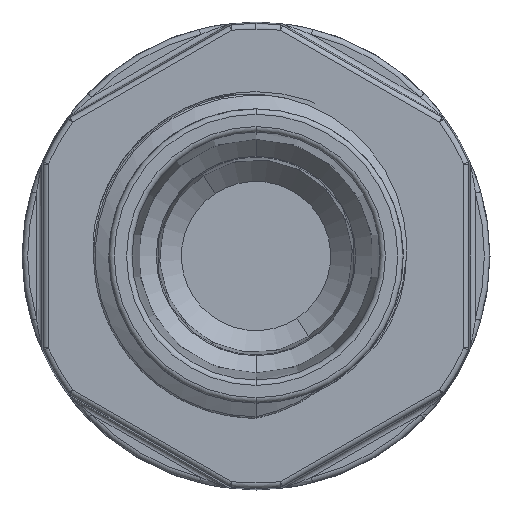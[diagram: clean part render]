
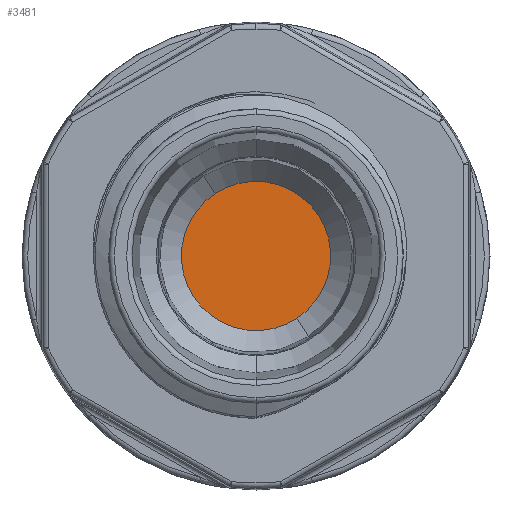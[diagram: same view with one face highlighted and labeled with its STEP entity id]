
A CAD part, front view. The second image highlights one B-rep face of the part: STEP entity #3481.
In plain terms, the highlighted planar face has unit normal (0, -1, 0).
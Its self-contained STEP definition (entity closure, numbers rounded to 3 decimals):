
#2274 = CARTESIAN_POINT ( 'NONE',  ( 0., 11., 0. ) ) ;
#3391 = DIRECTION ( 'NONE',  ( 0., -1., 0. ) ) ;
#3481 = ADVANCED_FACE ( 'NONE', ( #28599 ), #8229, .F. ) ;
#5016 = AXIS2_PLACEMENT_3D ( 'NONE', #17895, #25471, #28105 ) ;
#8142 = CARTESIAN_POINT ( 'NONE',  ( 0., 11., 0. ) ) ;
#8229 = PLANE ( 'NONE',  #5016 ) ;
#13215 = DIRECTION ( 'NONE',  ( 0., 0., -1. ) ) ;
#13403 = VERTEX_POINT ( 'NONE', #13601 ) ;
#13508 = VERTEX_POINT ( 'NONE', #19481 ) ;
#13601 = CARTESIAN_POINT ( 'NONE',  ( 0., 11., -4.146 ) ) ;
#14274 = AXIS2_PLACEMENT_3D ( 'NONE', #2274, #22451, #14745 ) ;
#14745 = DIRECTION ( 'NONE',  ( 0., 0., -1. ) ) ;
#15308 = CIRCLE ( 'NONE', #14274, 4.146 ) ;
#16021 = EDGE_CURVE ( 'NONE', #13403, #13508, #15308, .T. ) ;
#16488 = EDGE_CURVE ( 'NONE', #13508, #13403, #21092, .T. ) ;
#17895 = CARTESIAN_POINT ( 'NONE',  ( 0., 11., 0. ) ) ;
#19481 = CARTESIAN_POINT ( 'NONE',  ( 0., 11., 4.146 ) ) ;
#20840 = EDGE_LOOP ( 'NONE', ( #28783, #27267 ) ) ;
#21092 = CIRCLE ( 'NONE', #24515, 4.146 ) ;
#22451 = DIRECTION ( 'NONE',  ( 0., -1., 0. ) ) ;
#24515 = AXIS2_PLACEMENT_3D ( 'NONE', #8142, #3391, #13215 ) ;
#25471 = DIRECTION ( 'NONE',  ( 0., 1., 0. ) ) ;
#27267 = ORIENTED_EDGE ( 'NONE', *, *, #16488, .T. ) ;
#28105 = DIRECTION ( 'NONE',  ( 0., 0., 1. ) ) ;
#28599 = FACE_OUTER_BOUND ( 'NONE', #20840, .T. ) ;
#28783 = ORIENTED_EDGE ( 'NONE', *, *, #16021, .T. ) ;
